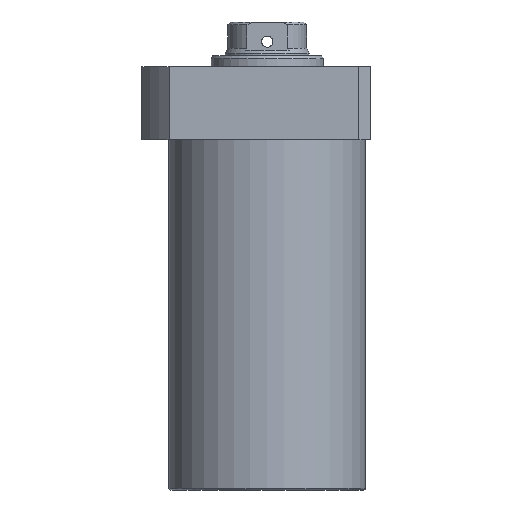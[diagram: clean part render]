
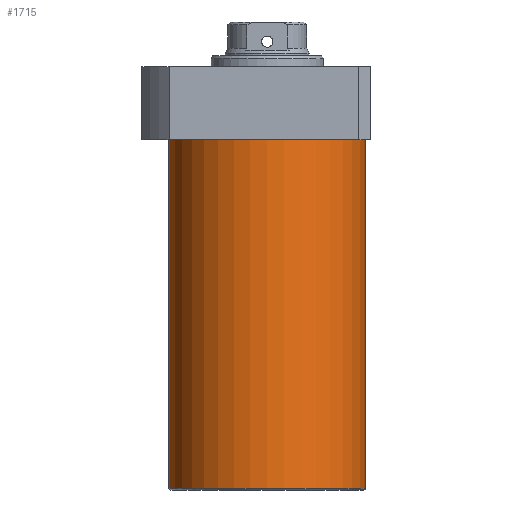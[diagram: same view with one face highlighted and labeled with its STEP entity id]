
A CAD part, front view. The second image highlights one B-rep face of the part: STEP entity #1715.
In plain terms, the highlighted cylindrical face has radius 52.5 mm (diameter 105 mm), a partial arc.
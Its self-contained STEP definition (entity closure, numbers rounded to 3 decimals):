
#1 = CARTESIAN_POINT ( 'NONE',  ( 0., 0., -206.5 ) ) ;
#139 = AXIS2_PLACEMENT_3D ( 'NONE', #146, #679, #1857 ) ;
#146 = CARTESIAN_POINT ( 'NONE',  ( 0., 0., -19.5 ) ) ;
#292 = CARTESIAN_POINT ( 'NONE',  ( 0., 0., -205.5 ) ) ;
#352 = DIRECTION ( 'NONE',  ( 1., 0., 0. ) ) ;
#427 = VECTOR ( 'NONE', #2211, 1000. ) ;
#458 = CIRCLE ( 'NONE', #139, 52.5 ) ;
#476 = ORIENTED_EDGE ( 'NONE', *, *, #2093, .T. ) ;
#477 = VERTEX_POINT ( 'NONE', #1119 ) ;
#614 = LINE ( 'NONE', #954, #2088 ) ;
#679 = DIRECTION ( 'NONE',  ( 0., 0., -1. ) ) ;
#783 = AXIS2_PLACEMENT_3D ( 'NONE', #1, #1711, #352 ) ;
#798 = FACE_OUTER_BOUND ( 'NONE', #1642, .T. ) ;
#829 = LINE ( 'NONE', #1701, #427 ) ;
#886 = CARTESIAN_POINT ( 'NONE',  ( 52.5, 0., -19.5 ) ) ;
#890 = EDGE_CURVE ( 'NONE', #1051, #477, #614, .T. ) ;
#901 = CIRCLE ( 'NONE', #1433, 52.5 ) ;
#930 = CYLINDRICAL_SURFACE ( 'NONE', #783, 52.5 ) ;
#954 = CARTESIAN_POINT ( 'NONE',  ( -52.5, 0., -206.5 ) ) ;
#985 = CARTESIAN_POINT ( 'NONE',  ( 52.5, 0., -205.5 ) ) ;
#1051 = VERTEX_POINT ( 'NONE', #2007 ) ;
#1108 = DIRECTION ( 'NONE',  ( 0., 0., 1. ) ) ;
#1119 = CARTESIAN_POINT ( 'NONE',  ( -52.5, 0., -19.5 ) ) ;
#1375 = ORIENTED_EDGE ( 'NONE', *, *, #1613, .T. ) ;
#1433 = AXIS2_PLACEMENT_3D ( 'NONE', #292, #1473, #1631 ) ;
#1473 = DIRECTION ( 'NONE',  ( 0., 0., 1. ) ) ;
#1546 = VERTEX_POINT ( 'NONE', #985 ) ;
#1613 = EDGE_CURVE ( 'NONE', #1546, #1777, #829, .T. ) ;
#1631 = DIRECTION ( 'NONE',  ( -1., 0., 0. ) ) ;
#1642 = EDGE_LOOP ( 'NONE', ( #1659, #476, #1375, #1856 ) ) ;
#1659 = ORIENTED_EDGE ( 'NONE', *, *, #890, .F. ) ;
#1701 = CARTESIAN_POINT ( 'NONE',  ( 52.5, 0., -206.5 ) ) ;
#1711 = DIRECTION ( 'NONE',  ( 0., 0., 1. ) ) ;
#1715 = ADVANCED_FACE ( 'NONE', ( #798 ), #930, .T. ) ;
#1777 = VERTEX_POINT ( 'NONE', #886 ) ;
#1856 = ORIENTED_EDGE ( 'NONE', *, *, #2199, .T. ) ;
#1857 = DIRECTION ( 'NONE',  ( 1., 0., 0. ) ) ;
#2007 = CARTESIAN_POINT ( 'NONE',  ( -52.5, 0., -205.5 ) ) ;
#2088 = VECTOR ( 'NONE', #1108, 1000. ) ;
#2093 = EDGE_CURVE ( 'NONE', #1051, #1546, #901, .T. ) ;
#2199 = EDGE_CURVE ( 'NONE', #1777, #477, #458, .T. ) ;
#2211 = DIRECTION ( 'NONE',  ( 0., 0., 1. ) ) ;
